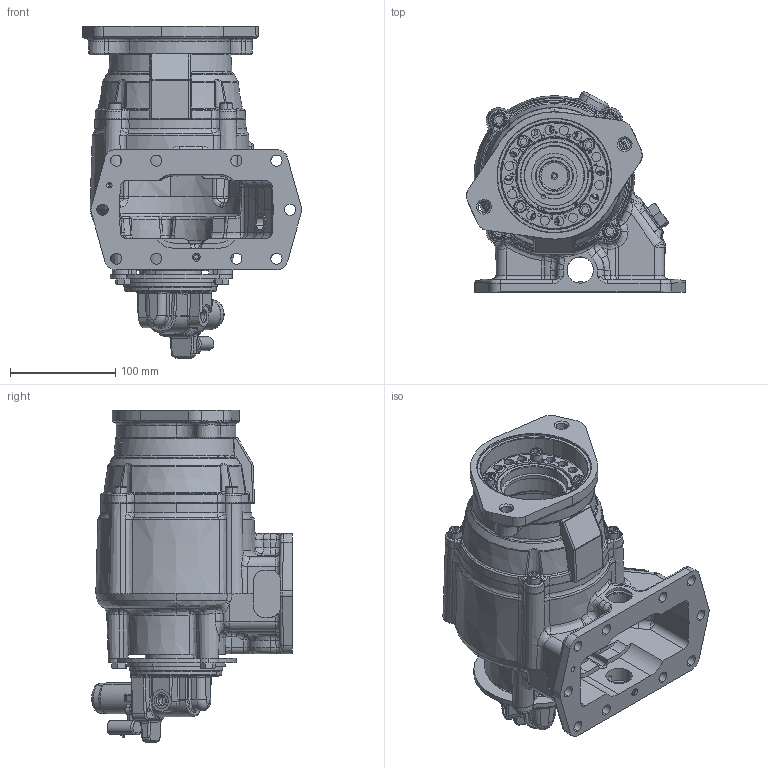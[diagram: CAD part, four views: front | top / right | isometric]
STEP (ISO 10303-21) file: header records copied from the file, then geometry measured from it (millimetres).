
FILE_DESCRIPTION (( 'STEP AP203' ), '1' );
FILE_NAME ('A20-A10XX-HX3BSPX.STEP', '2023-03-27T20:43:20', ( '' ), ( '' ), 'SwSTEP 2.0', 'SolidWorks 2021', '' );
FILE_SCHEMA (( 'CONFIG_CONTROL_DESIGN' ));
Length unit declared in the file: inch
Products named in the file (14): 12T36701; 35T40860; DropInSolenoidRearCoverAssembly; 15T43431_FOR CLAMPS; 19T62950; 25T35999TMP; 47T6123_15T43431_DUST CAP INSTALLED; 15T65391DB3; SC-301_25T37702; 47T6123TMP_Solenoid; 01T43433_3Arrangement; 19T36588_19T36588; A20-A10XX-HX3BSPX; 14T65650
Assembly tree (21 placements, depth 4):
  A20-A10XX-HX3BSPX
    01T43433_3Arrangement
    25T35999TMP
    15T65391DB3
    14T65650
    19T36588_19T36588  x8
    DropInSolenoidRearCoverAssembly
      47T6123TMP_Solenoid
      47T6123_15T43431_DUST CAP INSTALLED
        15T43431_FOR CLAMPS
        19T62950  x2
        12T36701
        SC-301_25T37702
    35T40860
Bounding box: 207.95 x 190.21 x 314.97 mm (x, y, z)
Volume: 737323 mm3; surface area: 455933.5 mm2
Topology: 26 solids, 38 shells, 3498 faces, 8646 edges, 5302 vertices
Faces by surface type: plane 1136, bspline 933, cylinder 761, cone 386, torus 246, sphere 36
Entity records: 165005 total; most frequent: CARTESIAN_POINT 90552, ORIENTED_EDGE 16314, DIRECTION 13472, EDGE_CURVE 8166, AXIS2_PLACEMENT_3D 5155, VERTEX_POINT 5070, EDGE_LOOP 3655, FACE_OUTER_BOUND 3331
